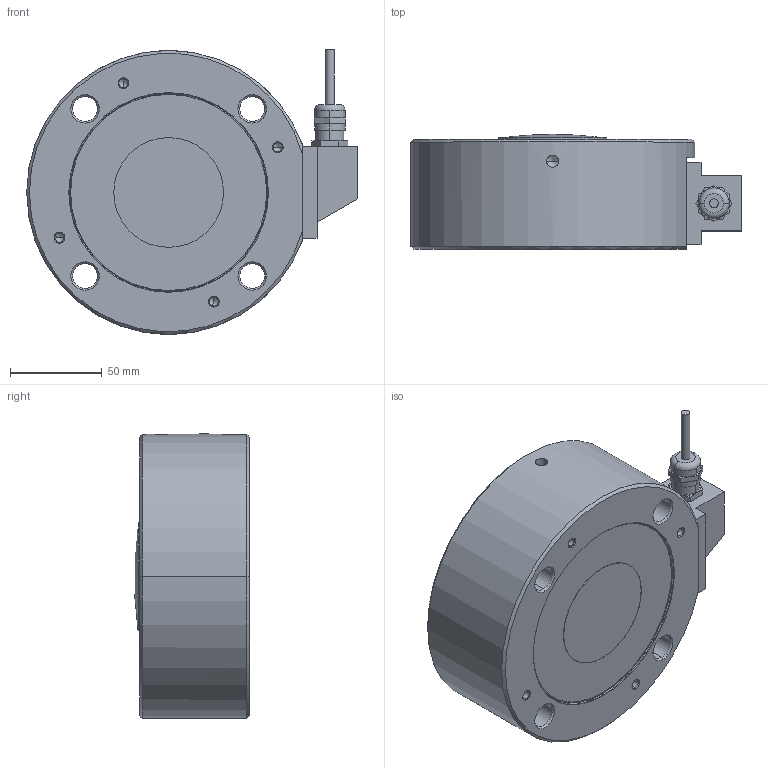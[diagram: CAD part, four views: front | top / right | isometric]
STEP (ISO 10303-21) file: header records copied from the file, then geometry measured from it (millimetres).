
FILE_DESCRIPTION(('STEP AP203'),'1');
FILE_NAME('C:/TPO v2/SharedFS/Outgoing/burster_8527-6050_chxb3t329ifof0s759cy6cjlf.stp','2013-08-27T13:27:50',('TraceParts'),('TraceParts S.A.'),'XStep 1.0',' ',' ');
FILE_SCHEMA(('CONFIG_CONTROL_DESIGN'));
Length unit declared in the file: millimetre
Products named in the file (1): 1
Bounding box: 180.5 x 62.76 x 155.5 mm (x, y, z)
Volume: 1115139.5 mm3; surface area: 85177.4 mm2
Topology: 1 solids, 4 shells, 167 faces, 387 edges, 235 vertices
Faces by surface type: cylinder 58, cone 54, plane 42, torus 12, sphere 1
Entity records: 4903 total; most frequent: CARTESIAN_POINT 1030, DIRECTION 855, ORIENTED_EDGE 750, EDGE_CURVE 375, AXIS2_PLACEMENT_3D 358, VERTEX_POINT 235, EDGE_LOOP 200, CIRCLE 190
